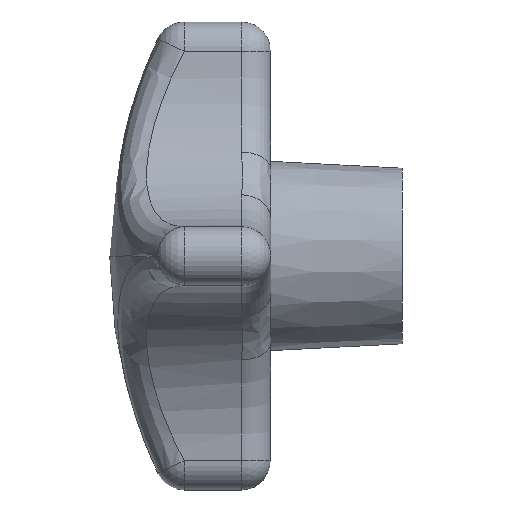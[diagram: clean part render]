
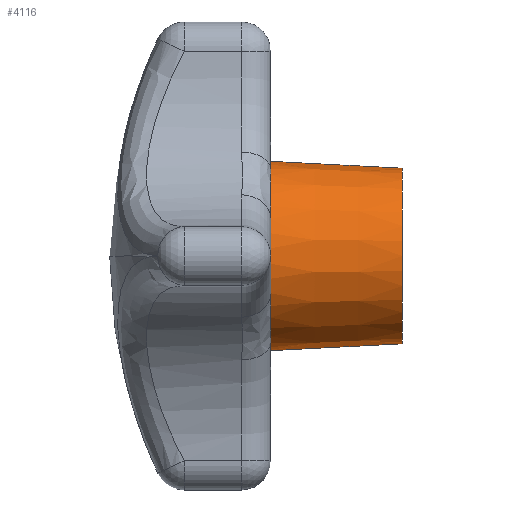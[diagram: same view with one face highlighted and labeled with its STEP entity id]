
A CAD part, left-side view. The second image highlights one B-rep face of the part: STEP entity #4116.
In plain terms, the highlighted conical face has half-angle 3 degrees and reference radius 6 mm.
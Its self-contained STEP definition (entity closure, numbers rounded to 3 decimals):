
#2074 = CARTESIAN_POINT ( 'NONE',  ( 0., 0., 0. ) ) ;
#2075 = AXIS2_PLACEMENT_3D ( 'NONE', #2074, #2139, #2138 ) ;
#2079 = CIRCLE ( 'NONE', #2075, 6.472 ) ;
#2083 = DIRECTION ( 'NONE',  ( 0., 0., 1. ) ) ;
#2084 = DIRECTION ( 'NONE',  ( 0., 1., 0. ) ) ;
#2085 = AXIS2_PLACEMENT_3D ( 'NONE', #2092, #2084, #2083 ) ;
#2086 = CIRCLE ( 'NONE', #2085, 6.472 ) ;
#2092 = CARTESIAN_POINT ( 'NONE',  ( 0., 0., 0. ) ) ;
#2093 = CARTESIAN_POINT ( 'NONE',  ( 0., 0., 6.472 ) ) ;
#2137 = CARTESIAN_POINT ( 'NONE',  ( -2.546, 0., 5.95 ) ) ;
#2138 = DIRECTION ( 'NONE',  ( 0., 0., 1. ) ) ;
#2139 = DIRECTION ( 'NONE',  ( 0., 1., 0. ) ) ;
#2147 = CARTESIAN_POINT ( 'NONE',  ( -2.546, 0., -5.95 ) ) ;
#2165 = CARTESIAN_POINT ( 'NONE',  ( -5.95, 0., 2.546 ) ) ;
#2248 = DIRECTION ( 'NONE',  ( 0., 0.999, 0.052 ) ) ;
#2249 = VECTOR ( 'NONE', #2248, 1000. ) ;
#2250 = CARTESIAN_POINT ( 'NONE',  ( 0., -9., 6. ) ) ;
#2251 = LINE ( 'NONE', #2250, #2249 ) ;
#2360 = DIRECTION ( 'NONE',  ( 0., 0.999, -0.052 ) ) ;
#2361 = VECTOR ( 'NONE', #2360, 1000. ) ;
#2362 = CARTESIAN_POINT ( 'NONE',  ( 0., -9., -6. ) ) ;
#2363 = LINE ( 'NONE', #2362, #2361 ) ;
#2370 = CARTESIAN_POINT ( 'NONE',  ( 0., 0., -6.472 ) ) ;
#2401 = CARTESIAN_POINT ( 'NONE',  ( 0., -9., 6. ) ) ;
#2402 = CARTESIAN_POINT ( 'NONE',  ( 0., -9., -6. ) ) ;
#2521 = DIRECTION ( 'NONE',  ( 0., 0., 1. ) ) ;
#2522 = DIRECTION ( 'NONE',  ( 0., 1., 0. ) ) ;
#2523 = CARTESIAN_POINT ( 'NONE',  ( 0., 0., 0. ) ) ;
#2524 = AXIS2_PLACEMENT_3D ( 'NONE', #2523, #2522, #2521 ) ;
#2525 = CIRCLE ( 'NONE', #2524, 6.472 ) ;
#2526 = DIRECTION ( 'NONE',  ( 0., 0., 1. ) ) ;
#2527 = DIRECTION ( 'NONE',  ( 0., 1., 0. ) ) ;
#2528 = CARTESIAN_POINT ( 'NONE',  ( 0., -9., 0. ) ) ;
#2529 = AXIS2_PLACEMENT_3D ( 'NONE', #2528, #2527, #2526 ) ;
#2530 = CIRCLE ( 'NONE', #2529, 6. ) ;
#2579 = DIRECTION ( 'NONE',  ( 0., 0., 1. ) ) ;
#2580 = DIRECTION ( 'NONE',  ( 0., 1., 0. ) ) ;
#2581 = AXIS2_PLACEMENT_3D ( 'NONE', #2583, #2580, #2579 ) ;
#2583 = CARTESIAN_POINT ( 'NONE',  ( 0., -9., 0. ) ) ;
#2584 = CONICAL_SURFACE ( 'NONE', #2581, 6., 0.052 ) ;
#2585 = FACE_OUTER_BOUND ( 'NONE', #4097, .T. ) ;
#2591 = CARTESIAN_POINT ( 'NONE',  ( -5.95, 0., -2.546 ) ) ;
#2611 = DIRECTION ( 'NONE',  ( 0., 0., 1. ) ) ;
#2612 = DIRECTION ( 'NONE',  ( 0., 1., 0. ) ) ;
#2613 = CARTESIAN_POINT ( 'NONE',  ( 0., 0., 0. ) ) ;
#2614 = AXIS2_PLACEMENT_3D ( 'NONE', #2613, #2612, #2611 ) ;
#2615 = CIRCLE ( 'NONE', #2614, 6.472 ) ;
#2616 = DIRECTION ( 'NONE',  ( 0., 0., 1. ) ) ;
#2617 = DIRECTION ( 'NONE',  ( 0., 1., 0. ) ) ;
#2618 = CARTESIAN_POINT ( 'NONE',  ( 0., 0., 0. ) ) ;
#2619 = AXIS2_PLACEMENT_3D ( 'NONE', #2618, #2617, #2616 ) ;
#2620 = CIRCLE ( 'NONE', #2619, 6.472 ) ;
#3893 = VERTEX_POINT ( 'NONE', #2093 ) ;
#3900 = EDGE_CURVE ( 'NONE', #4000, #3924, #2086, .T. ) ;
#3904 = EDGE_CURVE ( 'NONE', #3905, #3893, #2079, .T. ) ;
#3905 = VERTEX_POINT ( 'NONE', #2137 ) ;
#3916 = VERTEX_POINT ( 'NONE', #2165 ) ;
#3924 = VERTEX_POINT ( 'NONE', #2147 ) ;
#3972 = EDGE_CURVE ( 'NONE', #4017, #3893, #2251, .T. ) ;
#4000 = VERTEX_POINT ( 'NONE', #2370 ) ;
#4004 = EDGE_CURVE ( 'NONE', #4016, #4000, #2363, .T. ) ;
#4016 = VERTEX_POINT ( 'NONE', #2402 ) ;
#4017 = VERTEX_POINT ( 'NONE', #2401 ) ;
#4069 = ORIENTED_EDGE ( 'NONE', *, *, #4004, .F. ) ;
#4070 = ORIENTED_EDGE ( 'NONE', *, *, #4071, .T. ) ;
#4071 = EDGE_CURVE ( 'NONE', #4016, #4017, #2530, .T. ) ;
#4072 = ORIENTED_EDGE ( 'NONE', *, *, #3972, .T. ) ;
#4073 = ORIENTED_EDGE ( 'NONE', *, *, #3904, .F. ) ;
#4074 = ORIENTED_EDGE ( 'NONE', *, *, #4075, .F. ) ;
#4075 = EDGE_CURVE ( 'NONE', #3916, #3905, #2525, .T. ) ;
#4097 = EDGE_LOOP ( 'NONE', ( #4069, #4070, #4072, #4073, #4074, #4142, #4135, #4117 ) ) ;
#4111 = VERTEX_POINT ( 'NONE', #2591 ) ;
#4116 = ADVANCED_FACE ( 'NONE', ( #2585 ), #2584, .T. ) ;
#4117 = ORIENTED_EDGE ( 'NONE', *, *, #3900, .F. ) ;
#4124 = EDGE_CURVE ( 'NONE', #4111, #3916, #2620, .T. ) ;
#4135 = ORIENTED_EDGE ( 'NONE', *, *, #4140, .F. ) ;
#4140 = EDGE_CURVE ( 'NONE', #3924, #4111, #2615, .T. ) ;
#4142 = ORIENTED_EDGE ( 'NONE', *, *, #4124, .F. ) ;
